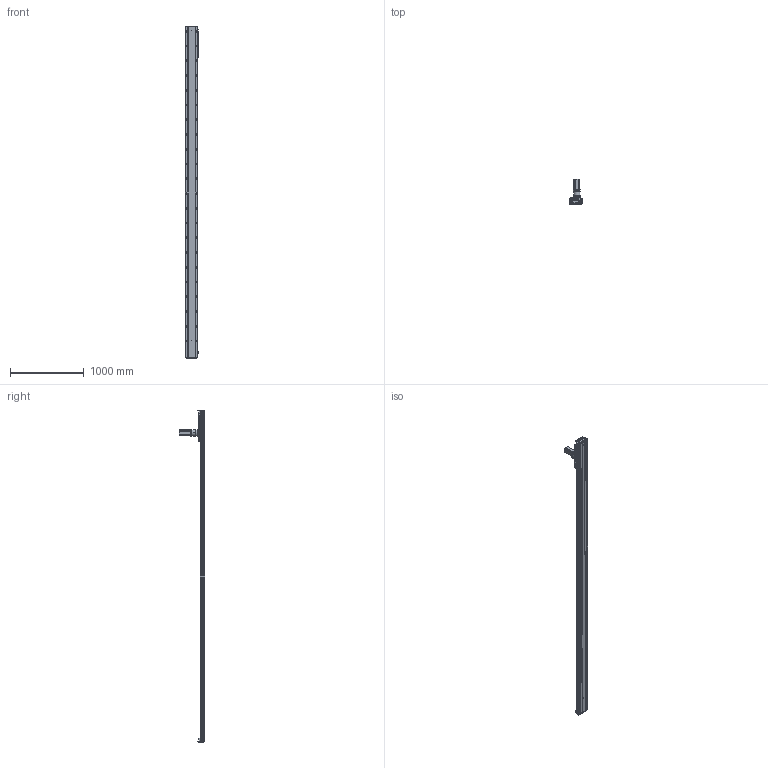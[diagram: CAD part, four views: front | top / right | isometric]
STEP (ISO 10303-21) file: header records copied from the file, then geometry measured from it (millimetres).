
FILE_DESCRIPTION (( 'STEP AP203' ), '1' );
FILE_NAME ('RY170-C-1000-UK.SLDASM_4000.step', '2021-03-03T00:49:47', ( '盈信电脑' ), ( '东莞市道滘镇水果街19号' ), 'SwSTEP 2.0', 'SolidWorks 2012', '' );
FILE_SCHEMA (( 'CONFIG_CONTROL_DESIGN' ));
Length unit declared in the file: millimetre
Products named in the file (13): RY170-C-1000-UK.SLDASM_4000; TF080等撰; RY170-喘沭賑輸; 左旋斜齿齿轮_M2_22齿_内孔20; RY170-喘沭滅袉蝶輸; 怢湛750W萇儂ㄗ80遺ㄘ; RY170外置感应片(200共用）; RY170-喘謫萇儂覃誹啣; RY170綴裔啣ㄗ蜊秶ㄘ; 覜茼ん672; 絳寢賑輸EGH20CA; RY170-1000-喘沭耀郪絳寢EGH20CA_4000; RY170-1000齿条模组型材底座_4000
Assembly tree (22 placements, depth 2):
  RY170-C-1000-UK.SLDASM_4000
    RY170-1000齿条模组型材底座_4000
    絳寢賑輸EGH20CA  x6
    RY170-1000-喘沭耀郪絳寢EGH20CA_4000  x2
    RY170綴裔啣ㄗ蜊秶ㄘ  x2
    覜茼ん672  x3
    RY170外置感应片(200共用）
    RY170-喘謫萇儂覃誹啣
    怢湛750W萇儂ㄗ80遺ㄘ
    RY170-喘沭滅袉蝶輸  x2
    TF080等撰
    左旋斜齿齿轮_M2_22齿_内孔20
    RY170-喘沭賑輸
Bounding box: 188.7 x 343.5 x 4500 mm (x, y, z)
Volume: 21499972.5 mm3; surface area: 5656580.7 mm2
Topology: 24 solids, 24 shells, 5403 faces, 15498 edges, 9834 vertices
Faces by surface type: plane 2441, cylinder 2416, cone 492, bspline 50, torus 4
Entity records: 128546 total; most frequent: CARTESIAN_POINT 32212, ORIENTED_EDGE 20390, DIRECTION 19474, EDGE_CURVE 10195, AXIS2_PLACEMENT_3D 7325, VERTEX_POINT 6622, VECTOR 4824, LINE 4824
